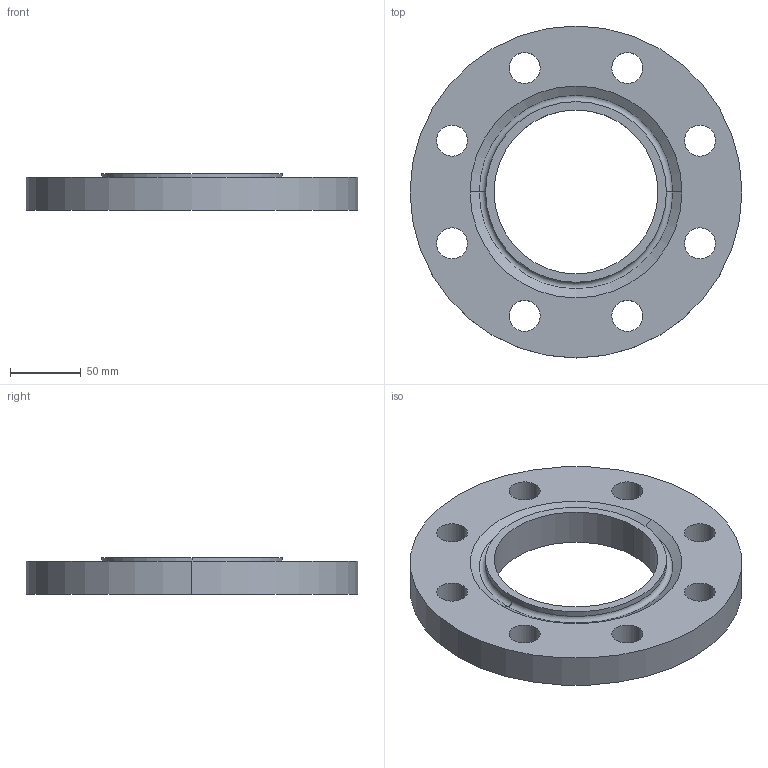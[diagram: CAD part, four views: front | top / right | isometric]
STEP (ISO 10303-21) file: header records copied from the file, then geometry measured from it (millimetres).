
FILE_DESCRIPTION (( 'STEP AP214' ), '1' );
FILE_NAME ('PN40 DN100 Type 01 - Type H Face.STEP', '2019-01-02T00:28:11', ( '' ), ( '' ), 'SwSTEP 2.0', 'SolidWorks 2019', '' );
FILE_SCHEMA (( 'AUTOMOTIVE_DESIGN' ));
Length unit declared in the file: millimetre
Products named in the file (1): PN40 DN100 Type 01 - Type H Face
Bounding box: 235 x 235 x 26 mm (x, y, z)
Volume: 691730.1 mm3; surface area: 102211.8 mm2
Topology: 1 solids, 1 shells, 29 faces, 74 edges, 48 vertices
Faces by surface type: cylinder 22, plane 3, torus 2, cone 2
Entity records: 976 total; most frequent: DIRECTION 184, CARTESIAN_POINT 152, ORIENTED_EDGE 148, AXIS2_PLACEMENT_3D 80, EDGE_CURVE 74, CIRCLE 50, EDGE_LOOP 48, VERTEX_POINT 48
